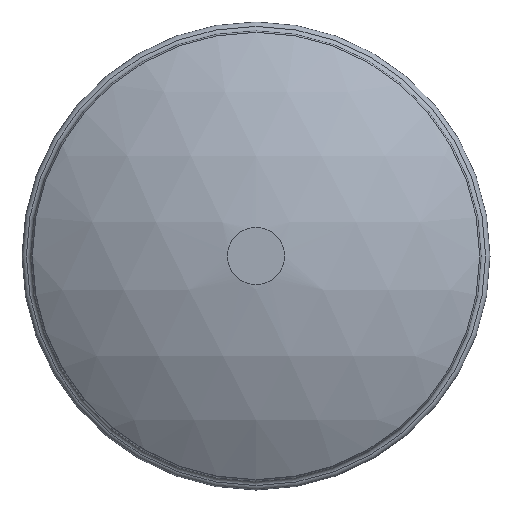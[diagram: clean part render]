
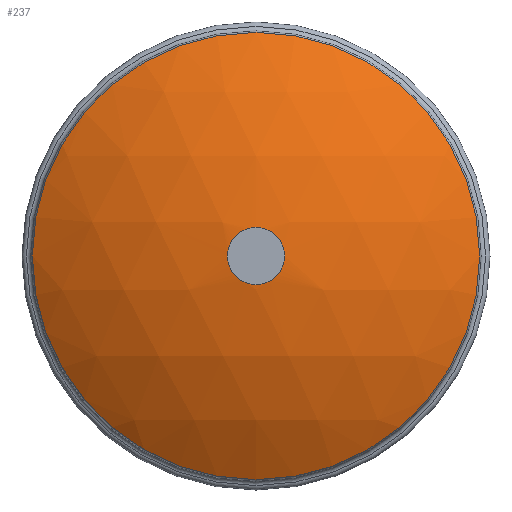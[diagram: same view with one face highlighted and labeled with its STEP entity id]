
A CAD part, left-side view. The second image highlights one B-rep face of the part: STEP entity #237.
In plain terms, the highlighted spherical face has radius 240.538 mm.
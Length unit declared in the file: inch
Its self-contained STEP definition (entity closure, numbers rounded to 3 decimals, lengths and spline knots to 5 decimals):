
#45=FACE_BOUND('',#75,.T.);
#47=SPHERICAL_SURFACE('',#284,9.47);
#62=FACE_OUTER_BOUND('',#74,.T.);
#74=EDGE_LOOP('',(#190));
#75=EDGE_LOOP('',(#191));
#90=CIRCLE('',#264,0.6575);
#93=CIRCLE('',#269,5.13798);
#113=VERTEX_POINT('',#416);
#115=VERTEX_POINT('',#423);
#133=EDGE_CURVE('',#113,#113,#90,.T.);
#136=EDGE_CURVE('',#115,#115,#93,.T.);
#190=ORIENTED_EDGE('',*,*,#136,.F.);
#191=ORIENTED_EDGE('',*,*,#133,.T.);
#237=ADVANCED_FACE('',(#62,#45),#47,.T.);
#264=AXIS2_PLACEMENT_3D('',#418,#317,#318);
#269=AXIS2_PLACEMENT_3D('',#425,#327,#328);
#284=AXIS2_PLACEMENT_3D('',#450,#359,#360);
#317=DIRECTION('center_axis',(1.,0.,0.));
#318=DIRECTION('ref_axis',(0.,0.,1.));
#327=DIRECTION('center_axis',(1.,0.,0.));
#328=DIRECTION('ref_axis',(0.,0.,-1.));
#359=DIRECTION('center_axis',(0.,0.,1.));
#360=DIRECTION('ref_axis',(-1.,0.002,0.));
#416=CARTESIAN_POINT('',(0.02285,0.,-0.6575));
#418=CARTESIAN_POINT('Origin',(0.02285,0.,
0.));
#423=CARTESIAN_POINT('',(1.515,-5.13798,0.));
#425=CARTESIAN_POINT('Origin',(1.515,0.,0.));
#450=CARTESIAN_POINT('Origin',(9.47,0.,0.));
